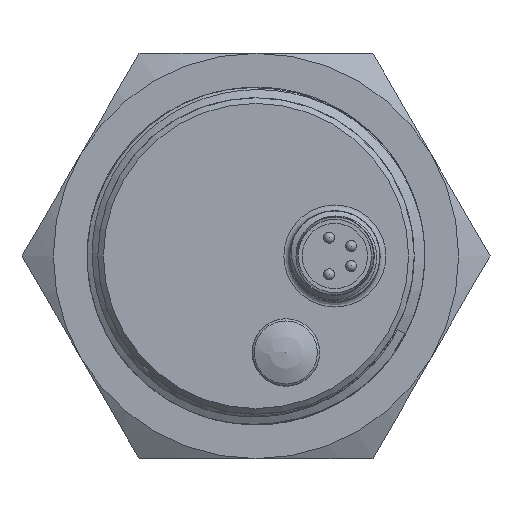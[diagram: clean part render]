
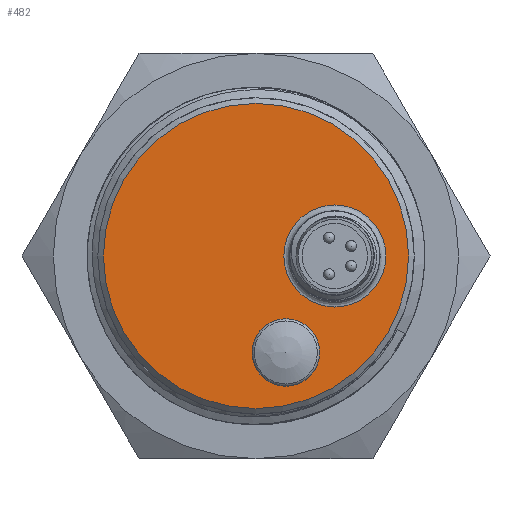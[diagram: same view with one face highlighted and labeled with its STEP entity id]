
A CAD part, front view. The second image highlights one B-rep face of the part: STEP entity #482.
In plain terms, the highlighted planar face has unit normal (0, -1, 0).
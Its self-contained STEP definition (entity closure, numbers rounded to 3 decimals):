
#379=FACE_BOUND('',#660,.T.);
#380=FACE_BOUND('',#661,.T.);
#381=FACE_BOUND('',#662,.T.);
#439=PLANE('',#1570);
#482=ADVANCED_FACE('',(#379,#380,#381),#439,.T.);
#660=EDGE_LOOP('',(#930));
#661=EDGE_LOOP('',(#931));
#662=EDGE_LOOP('',(#932));
#930=ORIENTED_EDGE('',*,*,#1346,.T.);
#931=ORIENTED_EDGE('',*,*,#1347,.T.);
#932=ORIENTED_EDGE('',*,*,#1348,.F.);
#1215=VERTEX_POINT('',#6330);
#1216=VERTEX_POINT('',#6332);
#1217=VERTEX_POINT('',#6334);
#1346=EDGE_CURVE('',#1215,#1215,#1484,.T.);
#1347=EDGE_CURVE('',#1216,#1216,#1485,.T.);
#1348=EDGE_CURVE('',#1217,#1217,#1486,.T.);
#1484=CIRCLE('',#1567,13.55);
#1485=CIRCLE('',#1568,4.53);
#1486=CIRCLE('',#1569,3.);
#1567=AXIS2_PLACEMENT_3D('',#6329,#1775,#1776);
#1568=AXIS2_PLACEMENT_3D('',#6331,#1777,#1778);
#1569=AXIS2_PLACEMENT_3D('',#6333,#1779,#1780);
#1570=AXIS2_PLACEMENT_3D('',#6335,#1781,#1782);
#1775=DIRECTION('',(0.,-1.,0.));
#1776=DIRECTION('',(0.,0.,-1.));
#1777=DIRECTION('',(0.,1.,0.));
#1778=DIRECTION('',(-1.,0.,0.));
#1779=DIRECTION('',(0.,-1.,0.));
#1780=DIRECTION('',(0.,0.,1.));
#1781=DIRECTION('',(0.,-1.,0.));
#1782=DIRECTION('',(-1.,0.,0.));
#6329=CARTESIAN_POINT('',(0.,-37.,0.));
#6330=CARTESIAN_POINT('',(0.,-37.,-13.55));
#6331=CARTESIAN_POINT('',(7.,-37.,0.));
#6332=CARTESIAN_POINT('',(2.47,-37.,0.));
#6333=CARTESIAN_POINT('',(2.65,-37.,-8.57));
#6334=CARTESIAN_POINT('',(2.65,-37.,-5.57));
#6335=CARTESIAN_POINT('',(15.455,-37.,15.455));
